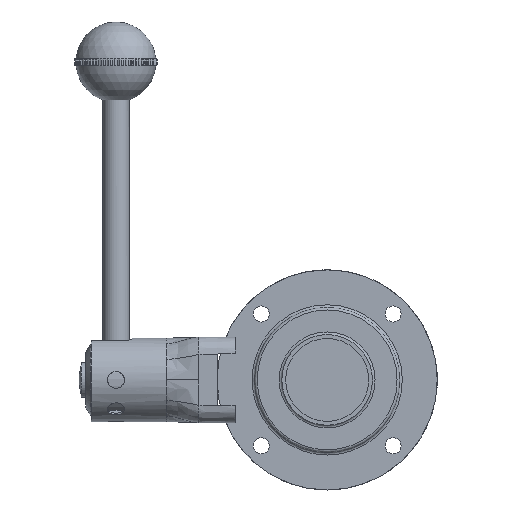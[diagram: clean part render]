
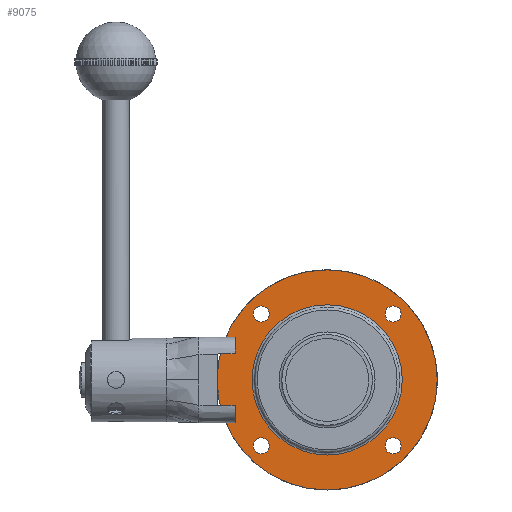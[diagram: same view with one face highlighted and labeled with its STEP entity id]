
A CAD part, left-side view. The second image highlights one B-rep face of the part: STEP entity #9075.
In plain terms, the highlighted planar face has unit normal (-1, 0, 0) as drawn and (1, 0, 0) by its records, which use the part's own axes.
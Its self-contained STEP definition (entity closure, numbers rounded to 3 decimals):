
#833=FACE_BOUND('',#2447,.T.);
#834=FACE_BOUND('',#2448,.T.);
#835=FACE_BOUND('',#2449,.T.);
#836=FACE_BOUND('',#2450,.T.);
#837=FACE_BOUND('',#2451,.T.);
#1184=PLANE('',#10211);
#1829=FACE_OUTER_BOUND('',#2446,.T.);
#2446=EDGE_LOOP('',(#8514));
#2447=EDGE_LOOP('',(#8515));
#2448=EDGE_LOOP('',(#8516));
#2449=EDGE_LOOP('',(#8517));
#2450=EDGE_LOOP('',(#8518));
#2451=EDGE_LOOP('',(#8519));
#3877=CIRCLE('',#10197,3.1);
#3878=CIRCLE('',#10199,3.1);
#3879=CIRCLE('',#10201,3.1);
#3880=CIRCLE('',#10203,3.1);
#3883=CIRCLE('',#10210,42.5);
#3884=CIRCLE('',#10212,29.);
#4720=VERTEX_POINT('',#26206);
#4721=VERTEX_POINT('',#26210);
#4722=VERTEX_POINT('',#26214);
#4723=VERTEX_POINT('',#26218);
#4726=VERTEX_POINT('',#26269);
#4727=VERTEX_POINT('',#26273);
#5978=EDGE_CURVE('',#4720,#4720,#3877,.T.);
#5980=EDGE_CURVE('',#4721,#4721,#3878,.T.);
#5982=EDGE_CURVE('',#4722,#4722,#3879,.T.);
#5984=EDGE_CURVE('',#4723,#4723,#3880,.T.);
#5991=EDGE_CURVE('',#4726,#4726,#3883,.T.);
#5993=EDGE_CURVE('',#4727,#4727,#3884,.T.);
#8514=ORIENTED_EDGE('',*,*,#5991,.T.);
#8515=ORIENTED_EDGE('',*,*,#5978,.T.);
#8516=ORIENTED_EDGE('',*,*,#5980,.T.);
#8517=ORIENTED_EDGE('',*,*,#5982,.T.);
#8518=ORIENTED_EDGE('',*,*,#5984,.T.);
#8519=ORIENTED_EDGE('',*,*,#5993,.F.);
#9075=ADVANCED_FACE('',(#1829,#833,#834,#835,#836,#837),#1184,.T.);
#10197=AXIS2_PLACEMENT_3D('',#26208,#12714,#12715);
#10199=AXIS2_PLACEMENT_3D('',#26212,#12719,#12720);
#10201=AXIS2_PLACEMENT_3D('',#26216,#12724,#12725);
#10203=AXIS2_PLACEMENT_3D('',#26220,#12729,#12730);
#10210=AXIS2_PLACEMENT_3D('',#26270,#12743,#12744);
#10211=AXIS2_PLACEMENT_3D('',#26272,#12746,#12747);
#10212=AXIS2_PLACEMENT_3D('',#26274,#12748,#12749);
#12714=DIRECTION('center_axis',(-1.,0.,0.));
#12715=DIRECTION('ref_axis',(0.,0.,1.));
#12719=DIRECTION('center_axis',(-1.,0.,0.));
#12720=DIRECTION('ref_axis',(0.,0.,1.));
#12724=DIRECTION('center_axis',(-1.,0.,0.));
#12725=DIRECTION('ref_axis',(0.,0.,1.));
#12729=DIRECTION('center_axis',(-1.,0.,0.));
#12730=DIRECTION('ref_axis',(0.,0.,1.));
#12743=DIRECTION('center_axis',(1.,0.,0.));
#12744=DIRECTION('ref_axis',(0.,0.,-1.));
#12746=DIRECTION('center_axis',(1.,0.,0.));
#12747=DIRECTION('ref_axis',(0.,0.,-1.));
#12748=DIRECTION('center_axis',(1.,0.,0.));
#12749=DIRECTION('ref_axis',(0.,0.,-1.));
#26206=CARTESIAN_POINT('',(10.,-25.456,22.356));
#26208=CARTESIAN_POINT('Origin',(10.,-25.456,25.456));
#26210=CARTESIAN_POINT('',(10.,25.456,-28.556));
#26212=CARTESIAN_POINT('Origin',(10.,25.456,-25.456));
#26214=CARTESIAN_POINT('',(10.,-25.456,-28.556));
#26216=CARTESIAN_POINT('Origin',(10.,-25.456,-25.456));
#26218=CARTESIAN_POINT('',(10.,25.456,22.356));
#26220=CARTESIAN_POINT('Origin',(10.,25.456,25.456));
#26269=CARTESIAN_POINT('',(10.,-42.5,0.));
#26270=CARTESIAN_POINT('Origin',(10.,0.,0.));
#26272=CARTESIAN_POINT('Origin',(10.,29.,0.));
#26273=CARTESIAN_POINT('',(10.,0.,29.));
#26274=CARTESIAN_POINT('Origin',(10.,0.,0.));
